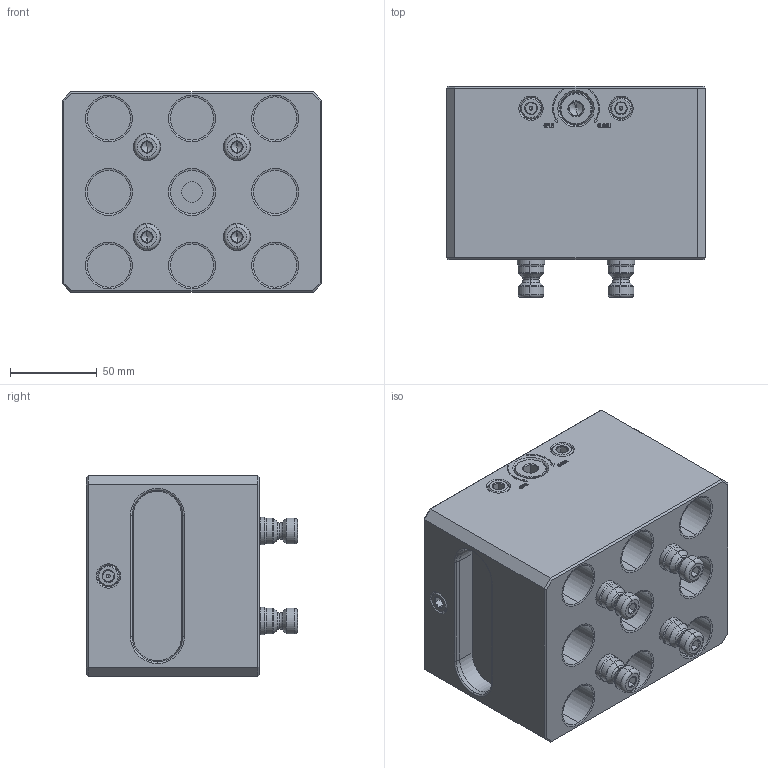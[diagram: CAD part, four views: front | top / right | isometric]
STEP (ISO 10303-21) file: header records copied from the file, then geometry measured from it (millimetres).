
FILE_DESCRIPTION((''),'2;1');
FILE_NAME('TI_WH_52ZPS_RH100NP001_ASM','2026-06-10T12:47:15',('Admin'),(''),'CREO PARAMETRIC BY PTC INC, 2025010','CREO PARAMETRIC BY PTC INC, 2025010','');
FILE_SCHEMA(('CONFIG_CONTROL_DESIGN'));
Products named in the file (23): B40101-00003_-60040001; B40101-00003_-67930001; B40101-00003_-87190001; F000-24770A_52MM_-0009; F000-24770A_52MM_-0010; B40101-00003_-19100001; B40101-00003_-19860001; F000-24770A_52MM_-0011; F000-24770A_52MM_-0012; F000-24770A_52MM_-0013; 200; F000-24770A_52MM_-0014; F009-0010923B_-1-S0001; B11500-00184_O--400001; F000-24770A_52MM_-0015; _20001; B40101-00003_-51360001; F000-24770A_52MM_-0016; B11500-00184_O--580001; B11500-00184_O--590001; B11500-00184_O--610001; NT-S52P150V3_ASM; TI_WH_52ZPS_RH100NP001_ASM
Assembly tree (22 placements, depth 3):
  TI_WH_52ZPS_RH100NP001_ASM
    NT-S52P150V3_ASM
      B40101-00003_-60040001
      B40101-00003_-67930001
      B40101-00003_-87190001
      F000-24770A_52MM_-0009
      F000-24770A_52MM_-0010
      B40101-00003_-19100001
      B40101-00003_-19860001
      F000-24770A_52MM_-0011
      F000-24770A_52MM_-0012
      F000-24770A_52MM_-0013
      200
      F000-24770A_52MM_-0014
      F009-0010923B_-1-S0001
      B11500-00184_O--400001
      F000-24770A_52MM_-0015
      _20001
      B40101-00003_-51360001
      F000-24770A_52MM_-0016
      B11500-00184_O--580001
      B11500-00184_O--590001
      B11500-00184_O--610001
Bounding box: 150 x 122 x 116 mm (x, y, z)
Volume: 1350537.2 mm3; surface area: 170918.6 mm2
Topology: 21 solids, 21 shells, 1067 faces, 2490 edges, 1500 vertices
Faces by surface type: plane 358, cylinder 316, cone 266, torus 72, extrusion 40, bspline 15
Entity records: 87568 total; most frequent: CARTESIAN_POINT 63397, DIRECTION 4933, ORIENTED_EDGE 4888, EDGE_CURVE 2444, AXIS2_PLACEMENT_3D 1869, VERTEX_POINT 1500, VECTOR 1195, EDGE_LOOP 1158
